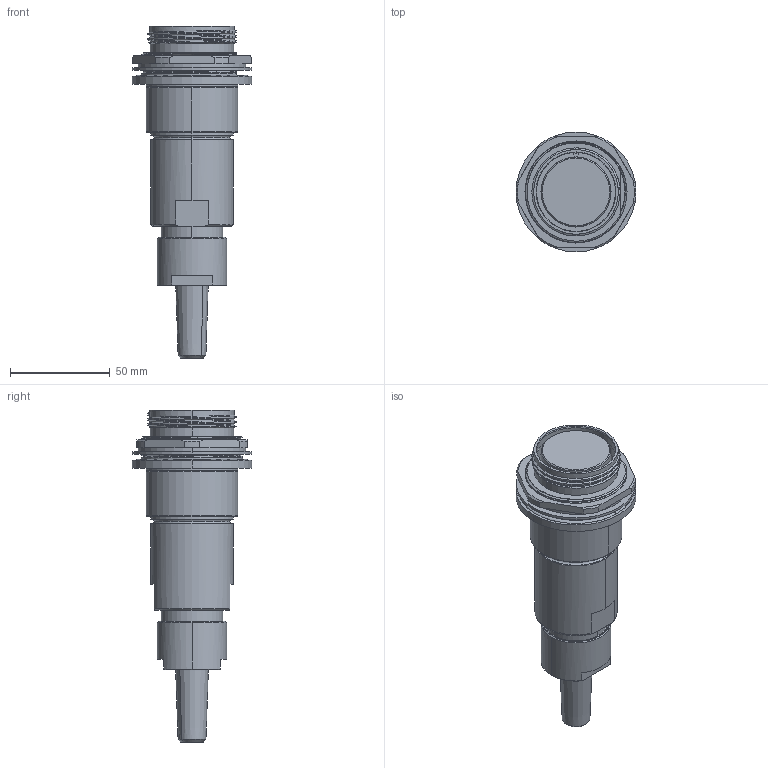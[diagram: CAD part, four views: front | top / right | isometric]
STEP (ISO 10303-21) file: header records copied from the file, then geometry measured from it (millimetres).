
FILE_DESCRIPTION (( 'STEP AP214' ), '1' );
FILE_NAME ('QLINK-RJTX-27XX-SXXX.STEP', '2025-09-30T22:10:34', ( '' ), ( '' ), 'SwSTEP 2.0', 'SolidWorks 2024', '' );
FILE_SCHEMA (( 'AUTOMOTIVE_DESIGN' ));
Length unit declared in the file: inch
Products named in the file (1): QLINK-RJTX-27XX-SXXX
Bounding box: 60.07 x 60.07 x 166.39 mm (x, y, z)
Volume: 182596.1 mm3; surface area: 39225.6 mm2
Topology: 2 solids, 2 shells, 219 faces, 557 edges, 358 vertices
Faces by surface type: cylinder 77, plane 45, cone 43, bspline 32, torus 22
Entity records: 15934 total; most frequent: CARTESIAN_POINT 10997, ORIENTED_EDGE 1114, DIRECTION 951, EDGE_CURVE 557, AXIS2_PLACEMENT_3D 397, VERTEX_POINT 358, EDGE_LOOP 243, ADVANCED_FACE 219
